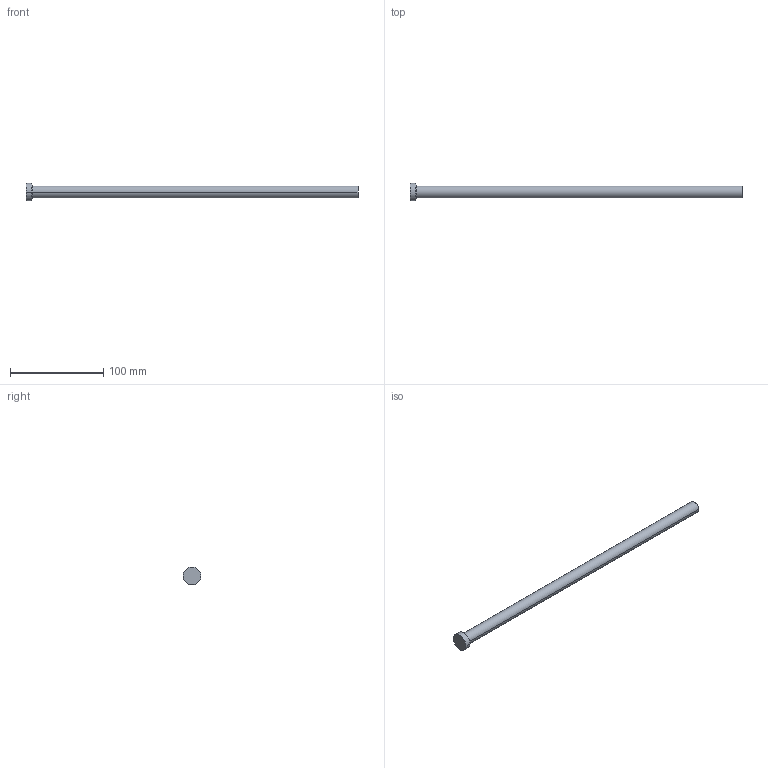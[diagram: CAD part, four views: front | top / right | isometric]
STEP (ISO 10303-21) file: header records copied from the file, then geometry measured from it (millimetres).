
FILE_DESCRIPTION (( 'STEP AP214' ), '1' );
FILE_NAME ('P33-14.STEP', '2020-03-12T10:59:14', ( '' ), ( '' ), 'SwSTEP 2.0', 'SolidWorks 2018', '' );
FILE_SCHEMA (( 'AUTOMOTIVE_DESIGN' ));
Length unit declared in the file: inch
Products named in the file (1): P33-14
Bounding box: 355.6 x 19.05 x 19.05 mm (x, y, z)
Volume: 46003.2 mm3; surface area: 14856.2 mm2
Topology: 1 solids, 1 shells, 13 faces, 24 edges, 14 vertices
Faces by surface type: cone 4, cylinder 4, plane 3, torus 2
Entity records: 366 total; most frequent: DIRECTION 68, CARTESIAN_POINT 52, ORIENTED_EDGE 48, AXIS2_PLACEMENT_3D 30, EDGE_CURVE 24, CIRCLE 16, VERTEX_POINT 14, EDGE_LOOP 14
